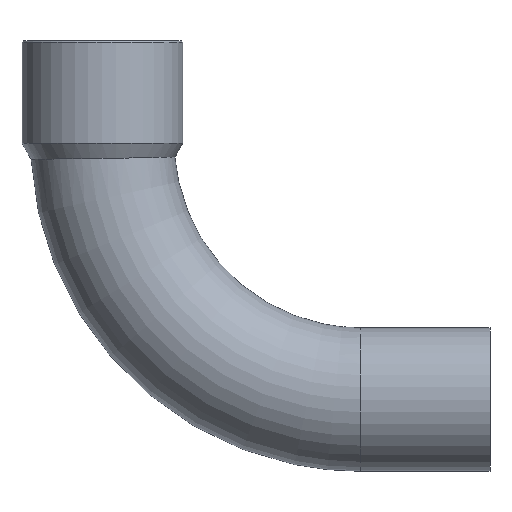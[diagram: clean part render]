
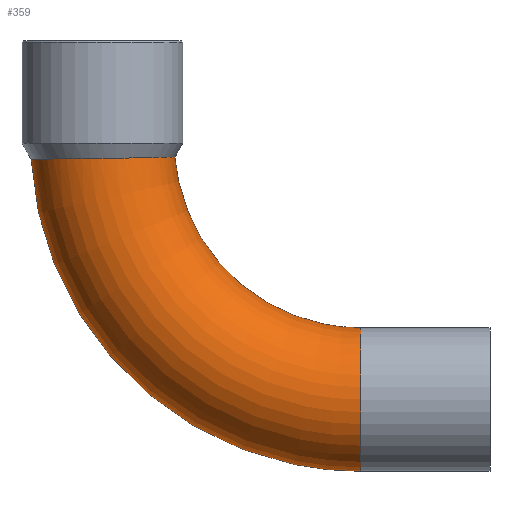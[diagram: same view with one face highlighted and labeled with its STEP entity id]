
A CAD part, front view. The second image highlights one B-rep face of the part: STEP entity #359.
In plain terms, the highlighted toroidal (fillet/blend) face has major radius 18 mm and minor radius 5 mm.
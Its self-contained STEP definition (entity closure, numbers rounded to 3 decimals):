
#101=CARTESIAN_POINT('',(22.035,5.0,-18.0));
#102=VERTEX_POINT('',#101);
#103=CARTESIAN_POINT('',(22.035,0.,-18.0));
#104=DIRECTION('',(-1.0,0.0,0.0));
#105=DIRECTION('',(0.0,0.0,-1.0));
#106=AXIS2_PLACEMENT_3D('',#103,#104,#105);
#107=CIRCLE('',#106,5.0);
#108=EDGE_CURVE('',#102,#102,#107,.T.);
#308=CARTESIAN_POINT('',(22.035,0.,0.0));
#309=DIRECTION('',(0.0,-1.0,0.0));
#310=DIRECTION('',(0.0,0.0,-1.0));
#311=AXIS2_PLACEMENT_3D('',#308,#309,#310);
#312=TOROIDAL_SURFACE('',#311,18.0,5.0);
#313=ORIENTED_EDGE('',*,*,#108,.T.);
#314=EDGE_LOOP('',(#313));
#315=FACE_OUTER_BOUND('',#314,.T.);
#316=CARTESIAN_POINT('',(-0.93,0.,-1.26));
#317=VERTEX_POINT('',#316);
#318=CARTESIAN_POINT('',(-0.93,0.,-1.26));
#319=CARTESIAN_POINT('',(-0.93,0.368,-1.26));
#320=CARTESIAN_POINT('',(-0.89,0.736,-1.259));
#321=CARTESIAN_POINT('',(-0.728,1.455,-1.258));
#322=CARTESIAN_POINT('',(-0.608,1.804,-1.256));
#323=CARTESIAN_POINT('',(-0.172,2.726,-1.252));
#324=CARTESIAN_POINT('',(0.219,3.254,-1.248));
#325=CARTESIAN_POINT('',(1.182,4.132,-1.237));
#326=CARTESIAN_POINT('',(1.746,4.473,-1.23));
#327=CARTESIAN_POINT('',(2.972,4.92,-1.215));
#328=CARTESIAN_POINT('',(3.623,5.022,-1.206));
#329=CARTESIAN_POINT('',(4.927,4.97,-1.188));
#330=CARTESIAN_POINT('',(5.568,4.817,-1.178));
#331=CARTESIAN_POINT('',(6.755,4.274,-1.159));
#332=CARTESIAN_POINT('',(7.289,3.889,-1.15));
#333=CARTESIAN_POINT('',(8.179,2.939,-1.134));
#334=CARTESIAN_POINT('',(8.526,2.382,-1.128));
#335=CARTESIAN_POINT('',(8.988,1.166,-1.119));
#336=CARTESIAN_POINT('',(9.098,0.52,-1.116));
#337=CARTESIAN_POINT('',(9.065,-0.78,-1.117));
#338=CARTESIAN_POINT('',(8.921,-1.421,-1.12));
#339=CARTESIAN_POINT('',(8.395,-2.612,-1.13));
#340=CARTESIAN_POINT('',(8.018,-3.151,-1.137));
#341=CARTESIAN_POINT('',(7.077,-4.055,-1.154));
#342=CARTESIAN_POINT('',(6.522,-4.411,-1.163));
#343=CARTESIAN_POINT('',(5.308,-4.89,-1.182));
#344=CARTESIAN_POINT('',(4.66,-5.008,-1.192));
#345=CARTESIAN_POINT('',(3.355,-4.991,-1.21));
#346=CARTESIAN_POINT('',(2.711,-4.855,-1.218));
#347=CARTESIAN_POINT('',(1.511,-4.343,-1.233));
#348=CARTESIAN_POINT('',(0.967,-3.974,-1.239));
#349=CARTESIAN_POINT('',(0.053,-3.047,-1.249));
#350=CARTESIAN_POINT('',(-0.309,-2.499,-1.253));
#351=CARTESIAN_POINT('',(-0.803,-1.295,-1.258));
#352=CARTESIAN_POINT('',(-0.93,-0.65,-1.26));
#353=CARTESIAN_POINT('',(-0.93,0.,-1.26));
#354=B_SPLINE_CURVE_WITH_KNOTS('',3,(#318,#319,#320,#321,#322,#323,#324,#325,#326,#327,#328,#329,#330,#331,#332,#333,#334,#335,#336,#337,#338,#339,#340,#341,#342,#343,#344,#345,#346,#347,#348,#349,#350,#351,#352,#353),.UNSPECIFIED.,.T.,.U.,(4,2,2,2,2,2,2,2,2,2,2,2,2,2,2,2,2,4),(-3.153,-3.043,-2.932,-2.737,-2.541,-2.345,-2.149,-1.954,-1.759,-1.564,-1.369,-1.173,-0.977,-0.781,-0.586,-0.39,-0.195,0.0),.UNSPECIFIED.);
#355=EDGE_CURVE('',#317,#317,#354,.T.);
#356=ORIENTED_EDGE('',*,*,#355,.T.);
#357=EDGE_LOOP('',(#356));
#358=FACE_BOUND('',#357,.T.);
#359=ADVANCED_FACE('',(#315,#358),#312,.T.);
